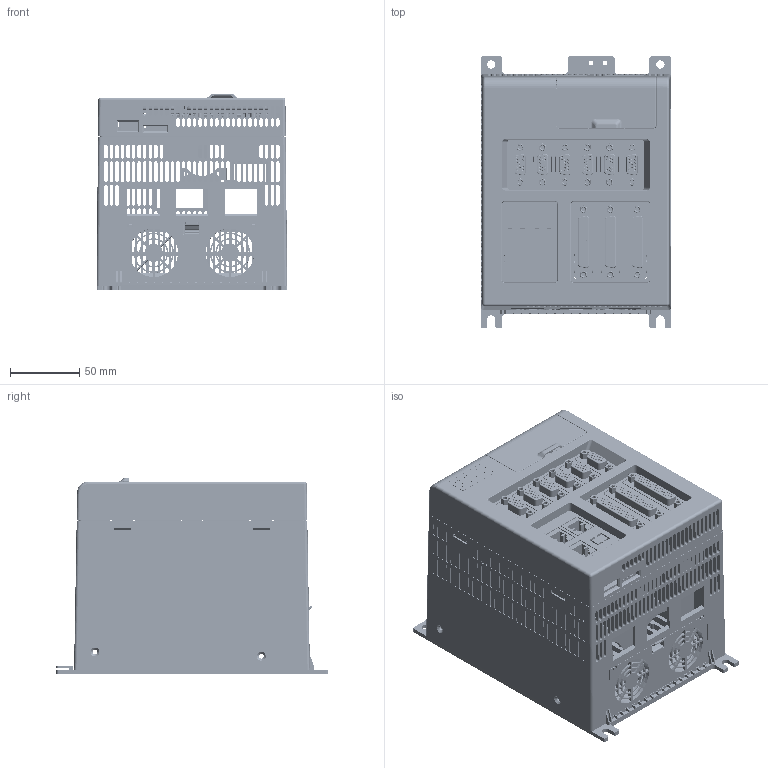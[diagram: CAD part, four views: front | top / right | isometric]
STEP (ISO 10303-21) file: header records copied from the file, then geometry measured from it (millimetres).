
FILE_DESCRIPTION((''),'2;1');
FILE_NAME('DA213_SW0001','2020-06-20T',('DELL'),(''),'PRO/ENGINEER BY PARAMETRIC TECHNOLOGY CORPORATION, 2010280','PRO/ENGINEER BY PARAMETRIC TECHNOLOGY CORPORATION, 2010280','');
FILE_SCHEMA(('AUTOMOTIVE_DESIGN { 1 2 10303 214 0 1 1 1 }'));
Products named in the file (1): DA213_SW0001
Bounding box: 137.61 x 196 x 141.7 mm (x, y, z)
Surface area: 357331.7 mm2 (no closed solid volume)
Topology: 0 solids, 62 shells, 11838 faces, 31167 edges, 20387 vertices
Faces by surface type: plane 6922, cylinder 4277, cone 364, torus 150, bspline 63, sphere 48, extrusion 14
Entity records: 463545 total; most frequent: CARTESIAN_POINT 115847, ORIENTED_EDGE 62254, DIRECTION 60582, EDGE_CURVE 31127, VECTOR 21574, LINE 21560, VERTEX_POINT 20387, AXIS2_PLACEMENT_3D 19504
